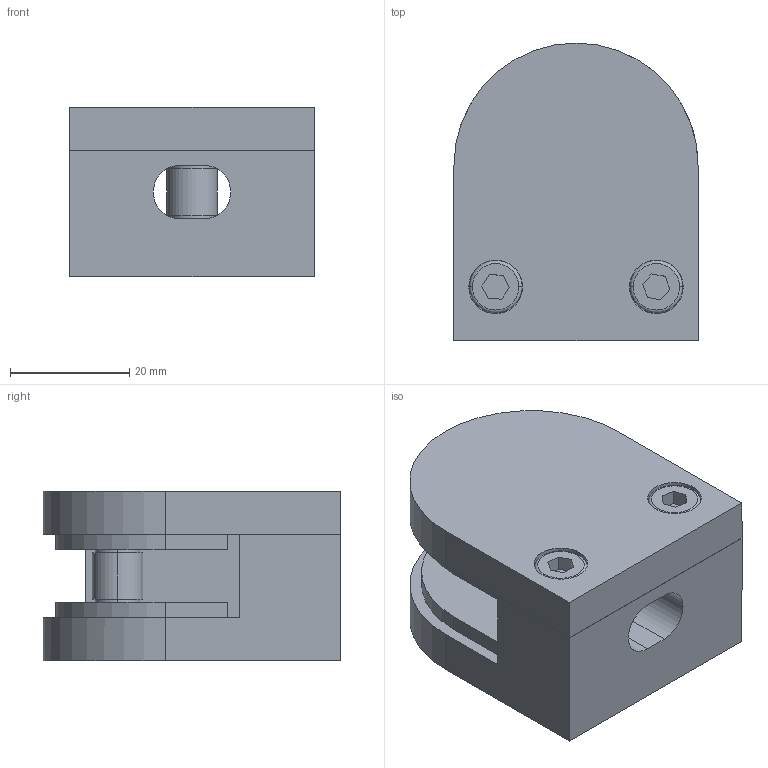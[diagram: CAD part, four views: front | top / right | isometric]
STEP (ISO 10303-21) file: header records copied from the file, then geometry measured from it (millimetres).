
FILE_DESCRIPTION (( 'STEP AP203' ), '1' );
FILE_NAME ('3D_GG4002_Flach x8.76_188758160.STEP', '2024-11-01T11:28:57', ( '' ), ( '' ), 'SwSTEP 2.0', 'SolidWorks 2023', '' );
FILE_SCHEMA (( 'CONFIG_CONTROL_DESIGN' ));
Length unit declared in the file: millimetre
Products named in the file (1): 3D_GG4002_Flach x8.76_188758160
Bounding box: 41 x 50 x 28.5 mm (x, y, z)
Volume: 41232.3 mm3; surface area: 19736.7 mm2
Topology: 7 solids, 7 shells, 117 faces, 259 edges, 170 vertices
Faces by surface type: plane 63, cylinder 46, torus 4, cone 4
Entity records: 3339 total; most frequent: DIRECTION 600, CARTESIAN_POINT 547, ORIENTED_EDGE 518, EDGE_CURVE 259, AXIS2_PLACEMENT_3D 223, VERTEX_POINT 170, LINE 154, VECTOR 154
